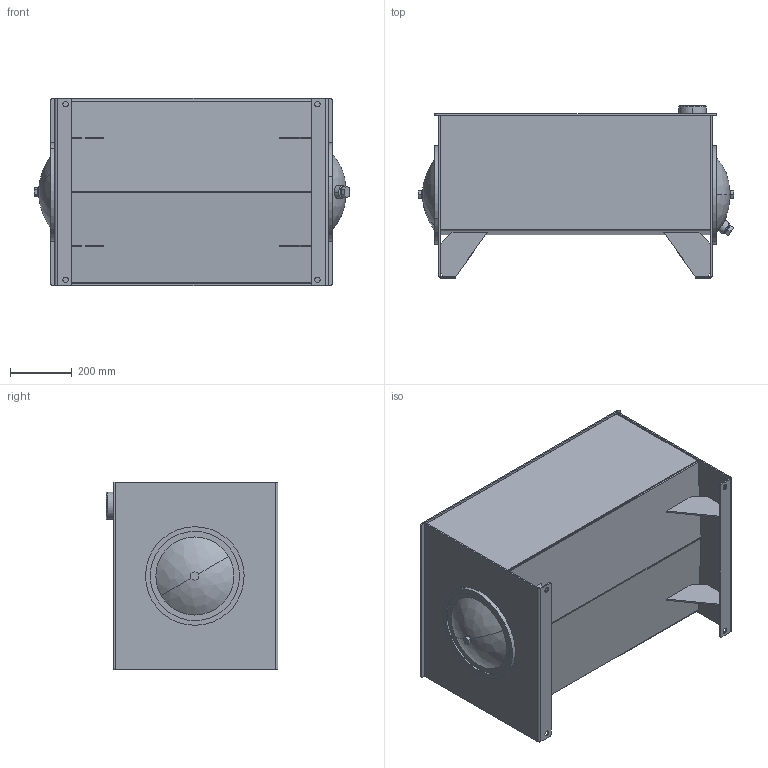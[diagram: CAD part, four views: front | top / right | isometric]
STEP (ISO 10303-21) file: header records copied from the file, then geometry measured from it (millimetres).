
FILE_DESCRIPTION (( 'STEP AP214' ), '1' );
FILE_NAME ('T1-40.STEP', '2014-07-25T19:17:35', ( 'User' ), ( '' ), 'SwSTEP 2.0', 'SolidWorks 2013', '' );
FILE_SCHEMA (( 'AUTOMOTIVE_DESIGN' ));
Length unit declared in the file: inch
Products named in the file (17): 12.00 GASKET; 0.625 - 11 BAFFLE NUT; 0.625 - 11 HEX BOLT; FILLER RISER; T1-40-GST; T1-40-BFL; T1-40-BDY; T1-40-EB; T1-40-EA; T1-40-LD; T1-40; TL-EC-12; 12.00 END COVER; TL-ECD-12; DRAIN; 12.00 END COVER WITH DRAIN; CRUSH WASHER
Assembly tree (23 placements, depth 3):
  T1-40
    T1-40-LD
    T1-40-EA
    T1-40-EB
    T1-40-BDY
    T1-40-BFL
    T1-40-GST  x4
    FILLER RISER
    TL-ECD-12
      0.625 - 11 HEX BOLT
      0.625 - 11 BAFFLE NUT
      12.00 GASKET
      CRUSH WASHER
      12.00 END COVER WITH DRAIN
      DRAIN
    TL-EC-12
      12.00 END COVER
      12.00 GASKET
      CRUSH WASHER
      0.625 - 11 HEX BOLT
      0.625 - 11 BAFFLE NUT
Bounding box: 1026.65 x 558.8 x 609.6 mm (x, y, z)
Volume: 12095969.2 mm3; surface area: 6026550.1 mm2
Topology: 22 solids, 22 shells, 293 faces, 672 edges, 432 vertices
Faces by surface type: plane 166, cylinder 109, bspline 8, cone 8, torus 2
Entity records: 8489 total; most frequent: CARTESIAN_POINT 1438, DIRECTION 1234, ORIENTED_EDGE 1068, EDGE_CURVE 534, AXIS2_PLACEMENT_3D 462, VERTEX_POINT 340, VECTOR 310, LINE 310
